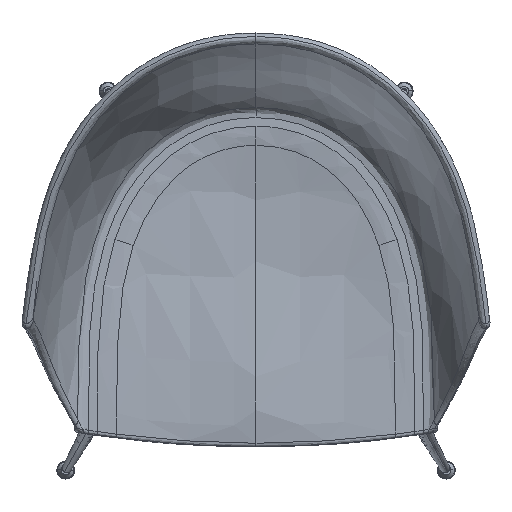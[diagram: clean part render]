
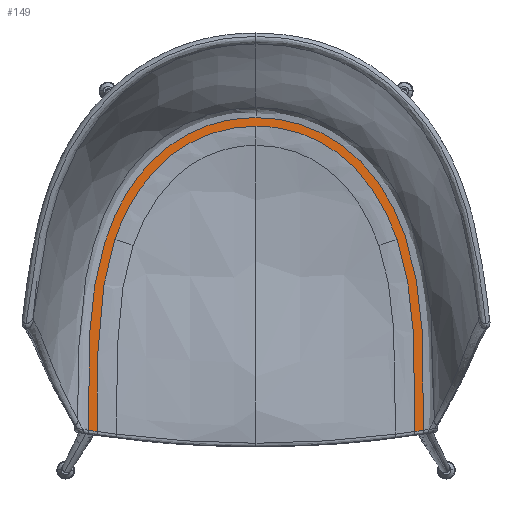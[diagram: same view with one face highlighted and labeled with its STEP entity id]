
A CAD part, top view. The second image highlights one B-rep face of the part: STEP entity #149.
In plain terms, the highlighted planar face has unit normal (0, 0.021, 1).
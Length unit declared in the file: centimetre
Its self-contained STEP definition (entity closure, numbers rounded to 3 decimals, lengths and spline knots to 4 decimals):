
#149=ADVANCED_FACE($,(#341),#2387,.T.);
#341=FACE_OUTER_BOUND($,#541,.T.);
#541=EDGE_LOOP($,(#1111,#1112,#1113,#1114,#1115,#1116,#1117,#1118,#1119,
#1120));
#1111=ORIENTED_EDGE($,*,*,#1767,.T.);
#1112=ORIENTED_EDGE($,*,*,#1768,.T.);
#1113=ORIENTED_EDGE($,*,*,#1774,.F.);
#1114=ORIENTED_EDGE($,*,*,#1773,.F.);
#1115=ORIENTED_EDGE($,*,*,#1776,.F.);
#1116=ORIENTED_EDGE($,*,*,#1775,.F.);
#1117=ORIENTED_EDGE($,*,*,#1777,.F.);
#1118=ORIENTED_EDGE($,*,*,#1778,.T.);
#1119=ORIENTED_EDGE($,*,*,#1771,.T.);
#1120=ORIENTED_EDGE($,*,*,#1772,.T.);
#1767=EDGE_CURVE($,#2111,#2112,#2556,.T.);
#1768=EDGE_CURVE($,#2112,#2109,#2557,.T.);
#1771=EDGE_CURVE($,#2113,#2114,#2560,.T.);
#1772=EDGE_CURVE($,#2114,#2111,#2561,.T.);
#1773=EDGE_CURVE($,#2115,#2116,#2562,.T.);
#1774=EDGE_CURVE($,#2116,#2109,#2563,.T.);
#1775=EDGE_CURVE($,#2118,#2117,#2564,.T.);
#1776=EDGE_CURVE($,#2117,#2115,#2565,.T.);
#1777=EDGE_CURVE($,#2119,#2118,#2566,.T.);
#1778=EDGE_CURVE($,#2119,#2113,#2567,.T.);
#2109=VERTEX_POINT($,#17548);
#2111=VERTEX_POINT($,#17550);
#2112=VERTEX_POINT($,#17551);
#2113=VERTEX_POINT($,#17552);
#2114=VERTEX_POINT($,#17553);
#2115=VERTEX_POINT($,#17554);
#2116=VERTEX_POINT($,#17555);
#2117=VERTEX_POINT($,#17556);
#2118=VERTEX_POINT($,#17557);
#2119=VERTEX_POINT($,#17558);
#2387=PLANE($,#2941);
#2556=B_SPLINE_CURVE_WITH_KNOTS($,3,(#6548,#6549,#6550,#6551),.UNSPECIFIED.,
.F.,.F.,(4,4),(0.,0.1221),.UNSPECIFIED.);
#2557=B_SPLINE_CURVE_WITH_KNOTS($,3,(#6552,#6553,#6554,#6555,#6556,#6557,
#6558,#6559,#6560,#6561),.UNSPECIFIED.,.F.,.F.,(4,2,2,2,4),(0.1221,
0.3405,0.5582,0.7796,1.),
.UNSPECIFIED.);
#2560=B_SPLINE_CURVE_WITH_KNOTS($,3,(#6579,#6580,#6581,#6582,#6583,#6584),
.UNSPECIFIED.,.F.,.F.,(4,2,4),(0.,0.2465,0.4904),
.UNSPECIFIED.);
#2561=B_SPLINE_CURVE_WITH_KNOTS($,3,(#6585,#6586,#6587,#6588,#6589,#6590),
.UNSPECIFIED.,.F.,.F.,(4,2,4),(0.4904,0.7446,1.),.UNSPECIFIED.);
#2562=B_SPLINE_CURVE_WITH_KNOTS($,3,(#6591,#6592,#6593,#6594,#6595,#6596,
#6597,#6598,#6599,#6600,#6601),.UNSPECIFIED.,.F.,.F.,(4,1,1,1,1,1,1,1,4),
(0.,31.9199,63.8398,95.7596,127.6795,159.5994,
191.5193,223.4392,250.8905),.UNSPECIFIED.);
#2563=B_SPLINE_CURVE_WITH_KNOTS($,3,(#6602,#6603,#6604,#6605,#6606,#6607,
#6608),.UNSPECIFIED.,.F.,.F.,(4,1,1,1,4),(0.,0.25,0.5,0.75,1.),.UNSPECIFIED.);
#2564=B_SPLINE_CURVE_WITH_KNOTS($,3,(#6609,#6610,#6611,#6612,#6613,#6614,
#6615,#6616,#6617,#6618,#6619),.UNSPECIFIED.,.F.,.F.,(4,1,1,1,1,1,1,1,4),
(-251.7581,-220.2883,-188.8186,-157.3488,
-125.879,-94.4093,-62.9395,-31.4698,0.),
.UNSPECIFIED.);
#2565=B_SPLINE_CURVE_WITH_KNOTS($,3,(#6620,#6621,#6622,#6623,#6624,#6625,
#6626,#6627,#6628,#6629,#6630),.UNSPECIFIED.,.F.,.F.,(4,1,1,1,1,1,1,1,4),
(0.,31.4698,62.9395,94.4093,125.879,
157.3488,188.8186,220.2883,251.7581),.UNSPECIFIED.);
#2566=B_SPLINE_CURVE_WITH_KNOTS($,3,(#6631,#6632,#6633,#6634,#6635,#6636,
#6637,#6638,#6639,#6640,#6641),.UNSPECIFIED.,.F.,.F.,(4,1,1,1,1,1,1,1,4),
(-250.8905,-223.4392,-191.5193,-159.5994,
-127.6795,-95.7596,-63.8398,-31.9199,0.),
.UNSPECIFIED.);
#2567=B_SPLINE_CURVE_WITH_KNOTS($,3,(#6642,#6643,#6644,#6645),.UNSPECIFIED.,
.F.,.F.,(4,4),(-1.,0.),.UNSPECIFIED.);
#2941=AXIS2_PLACEMENT_3D($,#12663,#2974,$);
#2974=DIRECTION($,(0.,0.021,1.));
#6548=CARTESIAN_POINT($,(24.6254,45.5384,46.9972));
#6549=CARTESIAN_POINT($,(22.5122,45.5384,46.9972));
#6550=CARTESIAN_POINT($,(20.4138,45.203,47.0042));
#6551=CARTESIAN_POINT($,(18.4121,44.5169,47.0186));
#6552=CARTESIAN_POINT($,(18.4121,44.5169,47.0186));
#6553=CARTESIAN_POINT($,(14.7511,43.2621,47.0449));
#6554=CARTESIAN_POINT($,(11.7052,40.9399,47.0935));
#6555=CARTESIAN_POINT($,(7.0244,34.8814,47.2204));
#6556=CARTESIAN_POINT($,(5.5153,31.3345,47.2947));
#6557=CARTESIAN_POINT($,(3.6012,23.9716,47.4489));
#6558=CARTESIAN_POINT($,(3.2091,20.2482,47.5269));
#6559=CARTESIAN_POINT($,(2.845,12.6498,47.6861));
#6560=CARTESIAN_POINT($,(2.8816,8.8657,47.7654));
#6561=CARTESIAN_POINT($,(2.9598,5.0754,47.8448));
#6579=CARTESIAN_POINT($,(46.291,5.0754,47.8448));
#6580=CARTESIAN_POINT($,(46.3784,9.3111,47.756));
#6581=CARTESIAN_POINT($,(46.4182,13.5363,47.6675));
#6582=CARTESIAN_POINT($,(45.8855,21.9616,47.491));
#6583=CARTESIAN_POINT($,(45.2945,26.2249,47.4017));
#6584=CARTESIAN_POINT($,(43.9188,30.2368,47.3177));
#6585=CARTESIAN_POINT($,(43.9188,30.2368,47.3177));
#6586=CARTESIAN_POINT($,(42.4978,34.3809,47.2309));
#6587=CARTESIAN_POINT($,(40.2225,38.2722,47.1494));
#6588=CARTESIAN_POINT($,(33.3356,44.0371,47.0286));
#6589=CARTESIAN_POINT($,(29.1163,45.5384,46.9972));
#6590=CARTESIAN_POINT($,(24.6254,45.5384,46.9972));
#6591=CARTESIAN_POINT($,(6.3698,29.7707,47.3275));
#6592=CARTESIAN_POINT($,(6.0361,28.7877,47.3481));
#6593=CARTESIAN_POINT($,(5.4701,26.7896,47.3899));
#6594=CARTESIAN_POINT($,(4.8682,23.7149,47.4543));
#6595=CARTESIAN_POINT($,(4.4638,20.5787,47.52));
#6596=CARTESIAN_POINT($,(4.2142,17.3961,47.5867));
#6597=CARTESIAN_POINT($,(4.0815,14.1811,47.654));
#6598=CARTESIAN_POINT($,(4.0326,10.9466,47.7218));
#6599=CARTESIAN_POINT($,(4.0387,7.8557,47.7865));
#6600=CARTESIAN_POINT($,(4.0617,5.8464,47.8286));
#6601=CARTESIAN_POINT($,(4.0748,4.9182,47.8481));
#6602=CARTESIAN_POINT($,(4.0748,4.9182,47.8481));
#6603=CARTESIAN_POINT($,(3.9819,4.9317,47.8478));
#6604=CARTESIAN_POINT($,(3.796,4.9572,47.8472));
#6605=CARTESIAN_POINT($,(3.5172,4.9961,47.8464));
#6606=CARTESIAN_POINT($,(3.2385,5.0357,47.8456));
#6607=CARTESIAN_POINT($,(3.0527,5.0622,47.845));
#6608=CARTESIAN_POINT($,(2.9598,5.0754,47.8448));
#6609=CARTESIAN_POINT($,(42.881,29.7707,47.3275));
#6610=CARTESIAN_POINT($,(42.5441,30.763,47.3067));
#6611=CARTESIAN_POINT($,(41.7643,32.7037,47.266));
#6612=CARTESIAN_POINT($,(40.2706,35.4673,47.2081));
#6613=CARTESIAN_POINT($,(38.4252,38.0164,47.1547));
#6614=CARTESIAN_POINT($,(36.2141,40.2581,47.1078));
#6615=CARTESIAN_POINT($,(33.6555,42.0955,47.0693));
#6616=CARTESIAN_POINT($,(30.8073,43.4459,47.041));
#6617=CARTESIAN_POINT($,(27.7613,44.256,47.024));
#6618=CARTESIAN_POINT($,(25.6706,44.4277,47.0205));
#6619=CARTESIAN_POINT($,(24.6254,44.4277,47.0205));
#6620=CARTESIAN_POINT($,(24.6254,44.4277,47.0205));
#6621=CARTESIAN_POINT($,(23.5802,44.4277,47.0205));
#6622=CARTESIAN_POINT($,(21.4895,44.256,47.024));
#6623=CARTESIAN_POINT($,(18.4435,43.4459,47.041));
#6624=CARTESIAN_POINT($,(15.5953,42.0955,47.0693));
#6625=CARTESIAN_POINT($,(13.0367,40.2581,47.1078));
#6626=CARTESIAN_POINT($,(10.8256,38.0164,47.1547));
#6627=CARTESIAN_POINT($,(8.9802,35.4673,47.2081));
#6628=CARTESIAN_POINT($,(7.4865,32.7037,47.266));
#6629=CARTESIAN_POINT($,(6.7067,30.763,47.3067));
#6630=CARTESIAN_POINT($,(6.3698,29.7707,47.3275));
#6631=CARTESIAN_POINT($,(45.176,4.9182,47.8481));
#6632=CARTESIAN_POINT($,(45.1891,5.8464,47.8286));
#6633=CARTESIAN_POINT($,(45.2121,7.8557,47.7865));
#6634=CARTESIAN_POINT($,(45.2182,10.9466,47.7218));
#6635=CARTESIAN_POINT($,(45.1693,14.1811,47.654));
#6636=CARTESIAN_POINT($,(45.0366,17.3961,47.5867));
#6637=CARTESIAN_POINT($,(44.787,20.5787,47.52));
#6638=CARTESIAN_POINT($,(44.3826,23.7149,47.4543));
#6639=CARTESIAN_POINT($,(43.7807,26.7896,47.3899));
#6640=CARTESIAN_POINT($,(43.2147,28.7877,47.3481));
#6641=CARTESIAN_POINT($,(42.881,29.7707,47.3275));
#6642=CARTESIAN_POINT($,(45.176,4.9182,47.8481));
#6643=CARTESIAN_POINT($,(45.5475,4.972,47.8469));
#6644=CARTESIAN_POINT($,(45.9194,5.0225,47.8459));
#6645=CARTESIAN_POINT($,(46.291,5.0754,47.8448));
#12663=CARTESIAN_POINT($,(-7.5178,35.6314,47.2047));
#17548=CARTESIAN_POINT($,(2.9598,5.0754,47.8448));
#17550=CARTESIAN_POINT($,(24.6254,45.5384,46.9972));
#17551=CARTESIAN_POINT($,(18.4121,44.5169,47.0186));
#17552=CARTESIAN_POINT($,(46.291,5.0754,47.8448));
#17553=CARTESIAN_POINT($,(43.9188,30.2368,47.3177));
#17554=CARTESIAN_POINT($,(6.3698,29.7707,47.3275));
#17555=CARTESIAN_POINT($,(4.0748,4.9182,47.8481));
#17556=CARTESIAN_POINT($,(24.6254,44.4277,47.0205));
#17557=CARTESIAN_POINT($,(42.881,29.7707,47.3275));
#17558=CARTESIAN_POINT($,(45.176,4.9182,47.8481));
